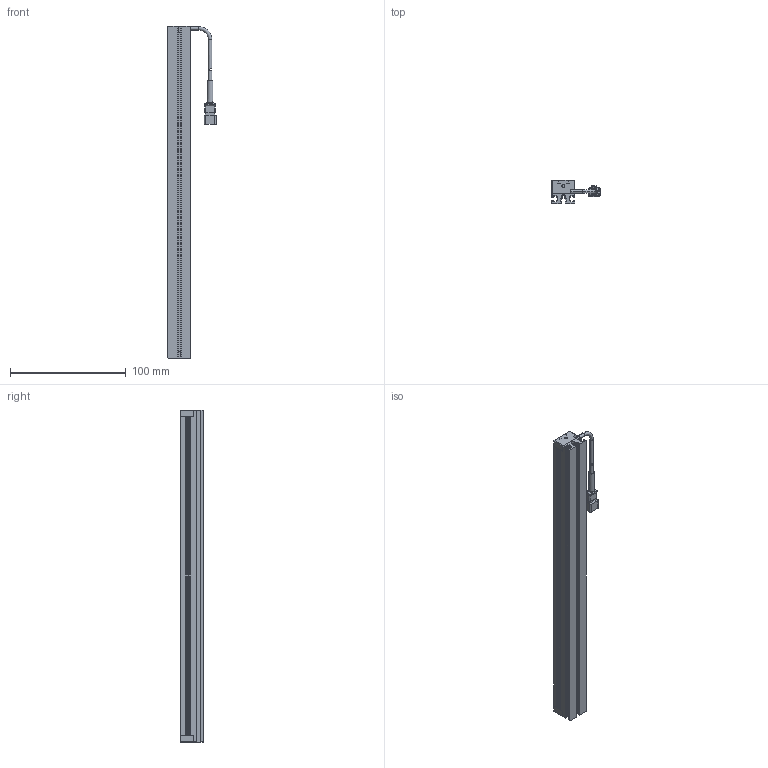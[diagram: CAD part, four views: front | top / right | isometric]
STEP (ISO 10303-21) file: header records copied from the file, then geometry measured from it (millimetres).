
FILE_DESCRIPTION (( 'STEP AP203' ), '1' );
FILE_NAME ('41x16_LDL2-275X16GR2.STEP', '2024-09-30T07:43:22', ( 'CCS' ), ( 'シーシーエス株式会社' ), 'SwSTEP 2.0', 'SolidWorks 2022', '' );
FILE_SCHEMA (( 'CONFIG_CONTROL_DESIGN' ));
Length unit declared in the file: millimetre
Products named in the file (7): ブロックB_LDL2-275X16GR2; フレーム_LDL2-275X16GR2; ブロックA_LDL2-275X16GR2; SMケーブル_LDL2-275X16GR2_パターン2; レンズ_LDL2-275X16GR2_11; 41x16_LDL2-275X16GR2; ねじ_LDL2-275X16GR2_M2x12_CAP(三価ｸﾛﾑ黒色)
Assembly tree (9 placements, depth 2):
  41x16_LDL2-275X16GR2
    フレーム_LDL2-275X16GR2
    レンズ_LDL2-275X16GR2_11
    ブロックA_LDL2-275X16GR2
    ブロックB_LDL2-275X16GR2
    ねじ_LDL2-275X16GR2_M2x12_CAP(三価ｸﾛﾑ黒色)  x4
    SMケーブル_LDL2-275X16GR2_パターン2
Bounding box: 41.75 x 20 x 287 mm (x, y, z)
Volume: 89350.5 mm3; surface area: 59106.3 mm2
Topology: 10 solids, 11 shells, 430 faces, 1083 edges, 685 vertices
Faces by surface type: plane 260, cylinder 92, bspline 44, torus 18, cone 16
Entity records: 13192 total; most frequent: CARTESIAN_POINT 3992, ORIENTED_EDGE 1814, DIRECTION 1619, EDGE_CURVE 907, LINE 639, VECTOR 639, VERTEX_POINT 586, AXIS2_PLACEMENT_3D 490
